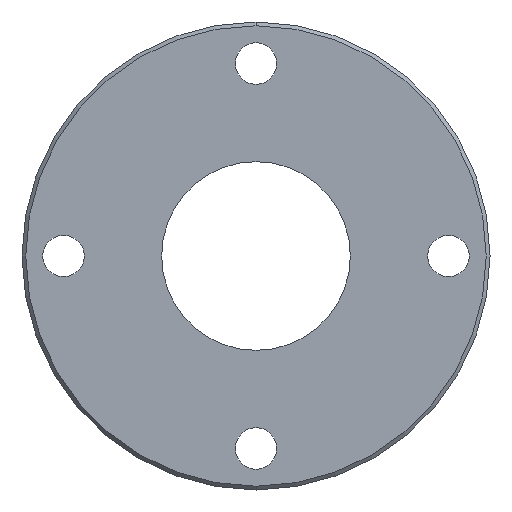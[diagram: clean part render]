
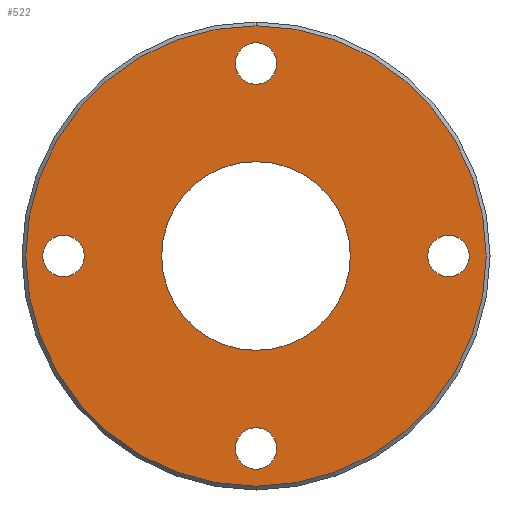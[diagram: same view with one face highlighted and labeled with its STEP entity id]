
A CAD part, front view. The second image highlights one B-rep face of the part: STEP entity #522.
In plain terms, the highlighted planar face has unit normal (0, -1, 0).
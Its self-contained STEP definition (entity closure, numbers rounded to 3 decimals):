
#22 = ORIENTED_EDGE ( 'NONE', *, *, #1484, .T. ) ;
#31 = FACE_OUTER_BOUND ( 'NONE', #521, .T. ) ;
#33 = DIRECTION ( 'NONE',  ( 0., 1., 0. ) ) ;
#35 = VERTEX_POINT ( 'NONE', #126 ) ;
#36 = AXIS2_PLACEMENT_3D ( 'NONE', #1426, #42, #380 ) ;
#40 = CIRCLE ( 'NONE', #1470, 2.75 ) ;
#42 = DIRECTION ( 'NONE',  ( 0., -1., 0. ) ) ;
#50 = CARTESIAN_POINT ( 'NONE',  ( 0., 0., -22.75 ) ) ;
#65 = CARTESIAN_POINT ( 'NONE',  ( 0., 0., 22.75 ) ) ;
#74 = VERTEX_POINT ( 'NONE', #802 ) ;
#78 = DIRECTION ( 'NONE',  ( 0., 1., 0. ) ) ;
#97 = DIRECTION ( 'NONE',  ( 0., 0., 1. ) ) ;
#121 = VERTEX_POINT ( 'NONE', #65 ) ;
#126 = CARTESIAN_POINT ( 'NONE',  ( 0., 0., -12.5 ) ) ;
#138 = CIRCLE ( 'NONE', #1379, 2.75 ) ;
#143 = FACE_BOUND ( 'NONE', #798, .T. ) ;
#144 = DIRECTION ( 'NONE',  ( 0., 0., 1. ) ) ;
#155 = ORIENTED_EDGE ( 'NONE', *, *, #993, .T. ) ;
#156 = CIRCLE ( 'NONE', #496, 2.75 ) ;
#163 = VERTEX_POINT ( 'NONE', #50 ) ;
#166 = DIRECTION ( 'NONE',  ( 0., 1., 0. ) ) ;
#169 = EDGE_CURVE ( 'NONE', #74, #163, #1117, .T. ) ;
#185 = AXIS2_PLACEMENT_3D ( 'NONE', #860, #492, #1215 ) ;
#193 = EDGE_CURVE ( 'NONE', #1085, #35, #782, .T. ) ;
#195 = CARTESIAN_POINT ( 'NONE',  ( 0., 0., 25.5 ) ) ;
#235 = CARTESIAN_POINT ( 'NONE',  ( 25.5, 0., -2.75 ) ) ;
#246 = EDGE_CURVE ( 'NONE', #1351, #121, #344, .T. ) ;
#262 = EDGE_LOOP ( 'NONE', ( #669, #155 ) ) ;
#288 = ORIENTED_EDGE ( 'NONE', *, *, #453, .T. ) ;
#317 = CARTESIAN_POINT ( 'NONE',  ( 25.5, 0., 2.75 ) ) ;
#324 = CARTESIAN_POINT ( 'NONE',  ( -25.5, 0., 0. ) ) ;
#325 = VERTEX_POINT ( 'NONE', #1249 ) ;
#330 = DIRECTION ( 'NONE',  ( 0., 1., 0. ) ) ;
#344 = CIRCLE ( 'NONE', #736, 2.75 ) ;
#347 = CARTESIAN_POINT ( 'NONE',  ( -25.5, 0., 2.75 ) ) ;
#351 = ORIENTED_EDGE ( 'NONE', *, *, #246, .T. ) ;
#366 = VERTEX_POINT ( 'NONE', #347 ) ;
#380 = DIRECTION ( 'NONE',  ( 0., 0., 1. ) ) ;
#419 = CARTESIAN_POINT ( 'NONE',  ( 0., 0., 12.5 ) ) ;
#453 = EDGE_CURVE ( 'NONE', #366, #656, #921, .T. ) ;
#492 = DIRECTION ( 'NONE',  ( 0., 1., 0. ) ) ;
#496 = AXIS2_PLACEMENT_3D ( 'NONE', #954, #33, #144 ) ;
#501 = DIRECTION ( 'NONE',  ( 0., 0., 1. ) ) ;
#513 = ORIENTED_EDGE ( 'NONE', *, *, #945, .T. ) ;
#521 = EDGE_LOOP ( 'NONE', ( #513, #897 ) ) ;
#522 = ADVANCED_FACE ( 'NONE', ( #1080, #609, #716, #143, #1072, #31 ), #747, .F. ) ;
#525 = DIRECTION ( 'NONE',  ( 0., 0., 1. ) ) ;
#533 = AXIS2_PLACEMENT_3D ( 'NONE', #870, #980, #1451 ) ;
#609 = FACE_BOUND ( 'NONE', #262, .T. ) ;
#612 = CARTESIAN_POINT ( 'NONE',  ( 0., 0., 0. ) ) ;
#629 = VERTEX_POINT ( 'NONE', #235 ) ;
#632 = ORIENTED_EDGE ( 'NONE', *, *, #723, .T. ) ;
#646 = DIRECTION ( 'NONE',  ( 0., 0., 1. ) ) ;
#656 = VERTEX_POINT ( 'NONE', #949 ) ;
#664 = CIRCLE ( 'NONE', #741, 2.75 ) ;
#666 = CARTESIAN_POINT ( 'NONE',  ( 25.5, 0., 0. ) ) ;
#669 = ORIENTED_EDGE ( 'NONE', *, *, #943, .T. ) ;
#712 = EDGE_LOOP ( 'NONE', ( #958, #1251 ) ) ;
#716 = FACE_BOUND ( 'NONE', #931, .T. ) ;
#723 = EDGE_CURVE ( 'NONE', #656, #366, #138, .T. ) ;
#736 = AXIS2_PLACEMENT_3D ( 'NONE', #195, #78, #1368 ) ;
#741 = AXIS2_PLACEMENT_3D ( 'NONE', #666, #1454, #646 ) ;
#746 = EDGE_CURVE ( 'NONE', #121, #1351, #846, .T. ) ;
#747 = PLANE ( 'NONE',  #185 ) ;
#782 = CIRCLE ( 'NONE', #803, 12.5 ) ;
#798 = EDGE_LOOP ( 'NONE', ( #288, #632 ) ) ;
#799 = DIRECTION ( 'NONE',  ( 0., 0., 1. ) ) ;
#802 = CARTESIAN_POINT ( 'NONE',  ( 0., 0., -28.25 ) ) ;
#803 = AXIS2_PLACEMENT_3D ( 'NONE', #612, #862, #525 ) ;
#832 = CARTESIAN_POINT ( 'NONE',  ( 0., 0., -30.5 ) ) ;
#846 = CIRCLE ( 'NONE', #987, 2.75 ) ;
#860 = CARTESIAN_POINT ( 'NONE',  ( 0., 0., 0. ) ) ;
#862 = DIRECTION ( 'NONE',  ( 0., 1., 0. ) ) ;
#870 = CARTESIAN_POINT ( 'NONE',  ( 0., 0., 0. ) ) ;
#877 = DIRECTION ( 'NONE',  ( 0., 0., 1. ) ) ;
#886 = CIRCLE ( 'NONE', #1349, 30.5 ) ;
#897 = ORIENTED_EDGE ( 'NONE', *, *, #1101, .T. ) ;
#921 = CIRCLE ( 'NONE', #1076, 2.75 ) ;
#931 = EDGE_LOOP ( 'NONE', ( #351, #1232 ) ) ;
#943 = EDGE_CURVE ( 'NONE', #1066, #629, #156, .T. ) ;
#945 = EDGE_CURVE ( 'NONE', #325, #1273, #1179, .T. ) ;
#949 = CARTESIAN_POINT ( 'NONE',  ( -25.5, 0., -2.75 ) ) ;
#954 = CARTESIAN_POINT ( 'NONE',  ( 25.5, 0., 0. ) ) ;
#957 = ORIENTED_EDGE ( 'NONE', *, *, #193, .T. ) ;
#958 = ORIENTED_EDGE ( 'NONE', *, *, #1172, .T. ) ;
#980 = DIRECTION ( 'NONE',  ( 0., 1., 0. ) ) ;
#987 = AXIS2_PLACEMENT_3D ( 'NONE', #1377, #330, #1409 ) ;
#993 = EDGE_CURVE ( 'NONE', #629, #1066, #664, .T. ) ;
#1066 = VERTEX_POINT ( 'NONE', #317 ) ;
#1072 = FACE_BOUND ( 'NONE', #1206, .T. ) ;
#1076 = AXIS2_PLACEMENT_3D ( 'NONE', #1432, #166, #501 ) ;
#1080 = FACE_BOUND ( 'NONE', #712, .T. ) ;
#1083 = DIRECTION ( 'NONE',  ( 0., 0., 1. ) ) ;
#1085 = VERTEX_POINT ( 'NONE', #419 ) ;
#1093 = AXIS2_PLACEMENT_3D ( 'NONE', #1192, #1311, #1083 ) ;
#1101 = EDGE_CURVE ( 'NONE', #1273, #325, #886, .T. ) ;
#1117 = CIRCLE ( 'NONE', #1093, 2.75 ) ;
#1172 = EDGE_CURVE ( 'NONE', #163, #74, #40, .T. ) ;
#1179 = CIRCLE ( 'NONE', #36, 30.5 ) ;
#1192 = CARTESIAN_POINT ( 'NONE',  ( 0., 0., -25.5 ) ) ;
#1206 = EDGE_LOOP ( 'NONE', ( #957, #22 ) ) ;
#1215 = DIRECTION ( 'NONE',  ( 1., 0., 0. ) ) ;
#1232 = ORIENTED_EDGE ( 'NONE', *, *, #746, .T. ) ;
#1247 = CARTESIAN_POINT ( 'NONE',  ( 0., 0., 0. ) ) ;
#1249 = CARTESIAN_POINT ( 'NONE',  ( 0., 0., 30.5 ) ) ;
#1251 = ORIENTED_EDGE ( 'NONE', *, *, #169, .T. ) ;
#1269 = DIRECTION ( 'NONE',  ( 0., -1., 0. ) ) ;
#1273 = VERTEX_POINT ( 'NONE', #832 ) ;
#1292 = CARTESIAN_POINT ( 'NONE',  ( 0., 0., -25.5 ) ) ;
#1311 = DIRECTION ( 'NONE',  ( 0., 1., 0. ) ) ;
#1349 = AXIS2_PLACEMENT_3D ( 'NONE', #1247, #1269, #799 ) ;
#1351 = VERTEX_POINT ( 'NONE', #1438 ) ;
#1368 = DIRECTION ( 'NONE',  ( 0., 0., 1. ) ) ;
#1377 = CARTESIAN_POINT ( 'NONE',  ( 0., 0., 25.5 ) ) ;
#1379 = AXIS2_PLACEMENT_3D ( 'NONE', #324, #1456, #877 ) ;
#1384 = CIRCLE ( 'NONE', #533, 12.5 ) ;
#1407 = DIRECTION ( 'NONE',  ( 0., 1., 0. ) ) ;
#1409 = DIRECTION ( 'NONE',  ( 0., 0., 1. ) ) ;
#1426 = CARTESIAN_POINT ( 'NONE',  ( 0., 0., 0. ) ) ;
#1432 = CARTESIAN_POINT ( 'NONE',  ( -25.5, 0., 0. ) ) ;
#1438 = CARTESIAN_POINT ( 'NONE',  ( 0., 0., 28.25 ) ) ;
#1451 = DIRECTION ( 'NONE',  ( 0., 0., 1. ) ) ;
#1454 = DIRECTION ( 'NONE',  ( 0., 1., 0. ) ) ;
#1456 = DIRECTION ( 'NONE',  ( 0., 1., 0. ) ) ;
#1470 = AXIS2_PLACEMENT_3D ( 'NONE', #1292, #1407, #97 ) ;
#1484 = EDGE_CURVE ( 'NONE', #35, #1085, #1384, .T. ) ;
